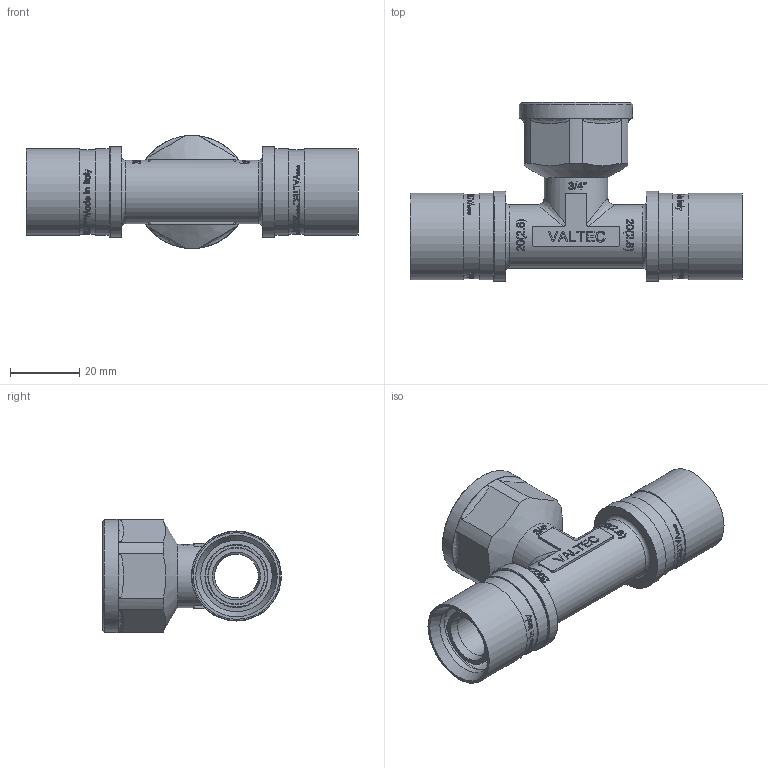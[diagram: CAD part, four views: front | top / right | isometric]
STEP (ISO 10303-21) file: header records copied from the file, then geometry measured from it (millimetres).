
FILE_DESCRIPTION(/* description */ (''),/* implementation_level */ '2;1');
FILE_NAME(/* name */ 'F:\Артём\00000\Работа удаленка\Аксеальные фитинги\VTm.432.BG.200520.stp',/* time_stamp */ '2021-01-26T15:30:41+03:00',/* author */ ('almis'),/* organization */ (''),/* preprocessor_version */ 'ST-DEVELOPER v18',/* originating_system */ 'Autodesk Inventor 2020',/* authorisation */ '');
FILE_SCHEMA (('AUTOMOTIVE_DESIGN { 1 0 10303 214 3 1 1 }'));
Products named in the file (1): VTm.403.BG.001616
Bounding box: 95.82 x 51.65 x 32.64 mm (x, y, z)
Volume: 25746.4 mm3; surface area: 24034.8 mm2
Topology: 1 solids, 1 shells, 1798 faces, 4895 edges, 3291 vertices
Faces by surface type: bspline 897, plane 644, cylinder 214, torus 24, cone 19
Full cylindrical faces by diameter (mm): 12.6 x2, 15.7 x10, 16.5 x8, 18.2 x2, 18.3 x2, 20.65 x4, 24.1 x6, 24.3 x2, 25 x4, 26 x2, 27.7 x7, 32.6 x1, 32.64 x1
Entity records: 76329 total; most frequent: CARTESIAN_POINT 36287, ORIENTED_EDGE 9790, DIRECTION 5607, EDGE_CURVE 4895, VERTEX_POINT 3291, LINE 2277, VECTOR 2277, EDGE_LOOP 1994
